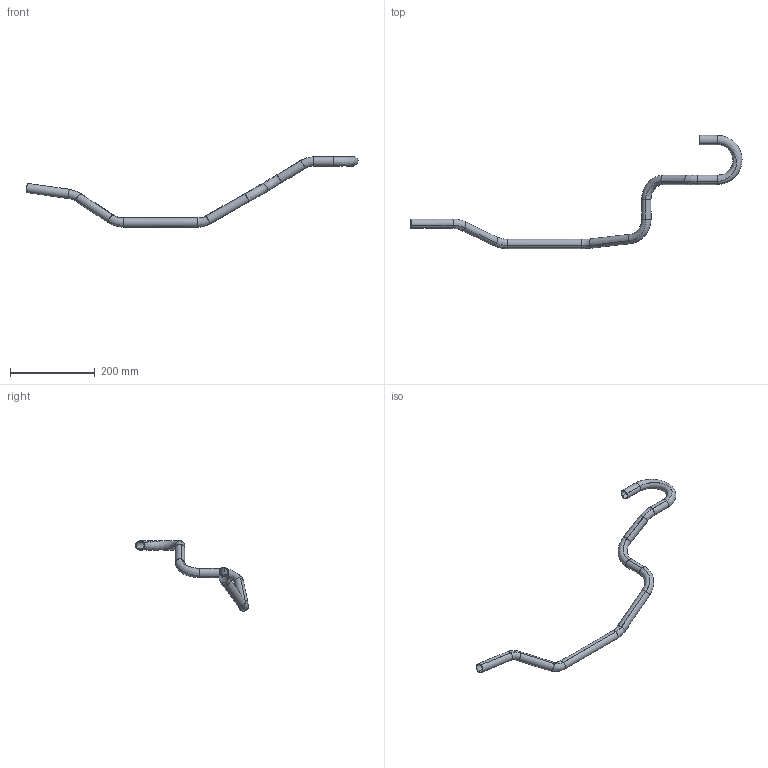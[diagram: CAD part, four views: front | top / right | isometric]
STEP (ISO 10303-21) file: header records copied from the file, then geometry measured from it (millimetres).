
FILE_DESCRIPTION(('CATIA V5 STEP Exchange','CAx-IF Rec.Pracs.--- Model Styling and Organization---1.2---2011-12-15'),'2;1');
FILE_NAME('c:\aplikace\smarteam\Temp\DO584740.step','2016-06-29T06:10:14+00:00',('none'),('none'),'CATIA Version 5 Release 21 SP 6 (IN-10)','CATIA V5 STEP AP214','none');
FILE_SCHEMA(('AUTOMOTIVE_DESIGN { 1 0 10303 214 1 1 1 1 }'));
Length unit declared in the file: millimetre
Products named in the file (1): DO584740, TRUBKA R2T5
Bounding box: 783.85 x 266.98 x 166.36 mm (x, y, z)
Volume: 104394.8 mm3; surface area: 139398.2 mm2
Topology: 1 solids, 1 shells, 62 faces, 124 edges, 64 vertices
Faces by surface type: cylinder 32, bspline 28, plane 2
Entity records: 3601 total; most frequent: CARTESIAN_POINT 2671, ORIENTED_EDGE 248, EDGE_CURVE 124, DIRECTION 104, EDGE_LOOP 64, VERTEX_POINT 64, ADVANCED_FACE 62, FACE_OUTER_BOUND 62
